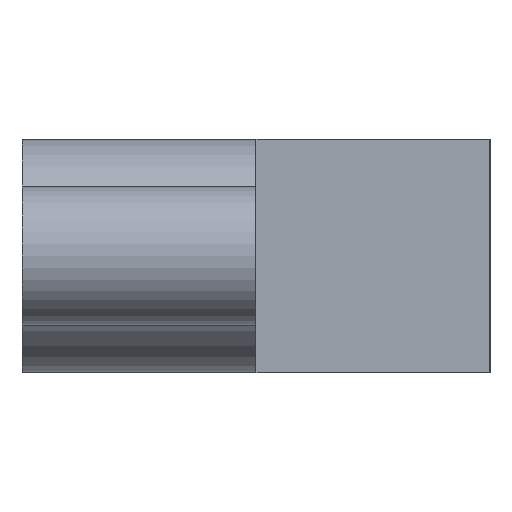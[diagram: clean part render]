
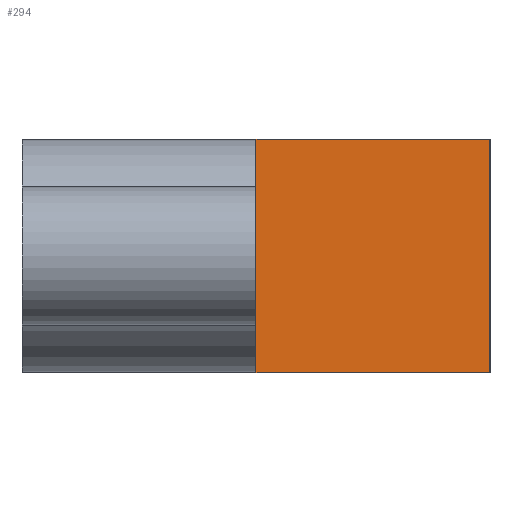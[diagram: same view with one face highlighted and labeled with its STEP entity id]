
A CAD part, left-side view. The second image highlights one B-rep face of the part: STEP entity #294.
In plain terms, the highlighted planar face has unit normal (-1, 0, 0).
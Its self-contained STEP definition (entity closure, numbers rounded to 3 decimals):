
#21 = ORIENTED_EDGE ( 'NONE', *, *, #203, .F. ) ;
#27 = CARTESIAN_POINT ( 'NONE',  ( -23.077, 2., -2.611 ) ) ;
#34 = CARTESIAN_POINT ( 'NONE',  ( -23.077, 2., -0.611 ) ) ;
#36 = DIRECTION ( 'NONE',  ( 0., -1., 0. ) ) ;
#40 = CARTESIAN_POINT ( 'NONE',  ( -23.077, 0., -2.611 ) ) ;
#53 = VERTEX_POINT ( 'NONE', #319 ) ;
#58 = CARTESIAN_POINT ( 'NONE',  ( -23.077, 0., -0.611 ) ) ;
#79 = DIRECTION ( 'NONE',  ( 0., 0., 1. ) ) ;
#82 = VERTEX_POINT ( 'NONE', #58 ) ;
#84 = AXIS2_PLACEMENT_3D ( 'NONE', #110, #363, #271 ) ;
#110 = CARTESIAN_POINT ( 'NONE',  ( -23.077, 2., -2.611 ) ) ;
#118 = CARTESIAN_POINT ( 'NONE',  ( -23.077, 2., -2.611 ) ) ;
#120 = EDGE_CURVE ( 'NONE', #53, #359, #315, .T. ) ;
#123 = DIRECTION ( 'NONE',  ( 0., -1., 0. ) ) ;
#127 = LINE ( 'NONE', #34, #157 ) ;
#129 = EDGE_CURVE ( 'NONE', #53, #354, #280, .T. ) ;
#130 = VECTOR ( 'NONE', #286, 1000. ) ;
#134 = LINE ( 'NONE', #267, #151 ) ;
#151 = VECTOR ( 'NONE', #79, 1000. ) ;
#157 = VECTOR ( 'NONE', #36, 1000. ) ;
#160 = ORIENTED_EDGE ( 'NONE', *, *, #362, .T. ) ;
#165 = ORIENTED_EDGE ( 'NONE', *, *, #129, .F. ) ;
#186 = VECTOR ( 'NONE', #123, 1000. ) ;
#197 = CARTESIAN_POINT ( 'NONE',  ( -23.077, 2., -0.611 ) ) ;
#203 = EDGE_CURVE ( 'NONE', #354, #82, #127, .T. ) ;
#230 = EDGE_LOOP ( 'NONE', ( #160, #21, #165, #338 ) ) ;
#267 = CARTESIAN_POINT ( 'NONE',  ( -23.077, 0., -2.611 ) ) ;
#269 = PLANE ( 'NONE',  #84 ) ;
#271 = DIRECTION ( 'NONE',  ( 0., 0., -1. ) ) ;
#280 = LINE ( 'NONE', #27, #130 ) ;
#286 = DIRECTION ( 'NONE',  ( 0., 0., 1. ) ) ;
#294 = ADVANCED_FACE ( 'NONE', ( #329 ), #269, .F. ) ;
#315 = LINE ( 'NONE', #118, #186 ) ;
#319 = CARTESIAN_POINT ( 'NONE',  ( -23.077, 2., -2.611 ) ) ;
#329 = FACE_OUTER_BOUND ( 'NONE', #230, .T. ) ;
#338 = ORIENTED_EDGE ( 'NONE', *, *, #120, .T. ) ;
#354 = VERTEX_POINT ( 'NONE', #197 ) ;
#359 = VERTEX_POINT ( 'NONE', #40 ) ;
#362 = EDGE_CURVE ( 'NONE', #359, #82, #134, .T. ) ;
#363 = DIRECTION ( 'NONE',  ( 1., 0., 0. ) ) ;
